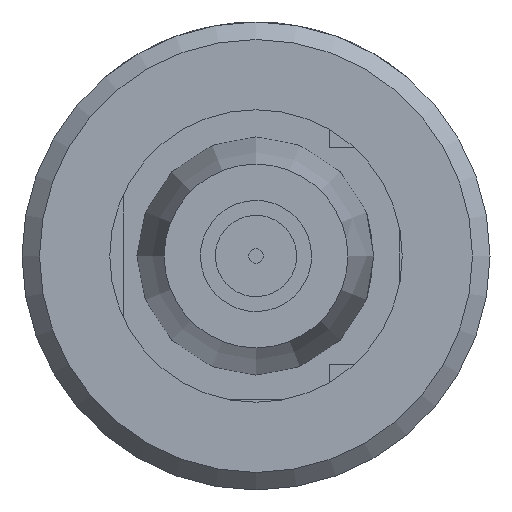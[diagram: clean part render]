
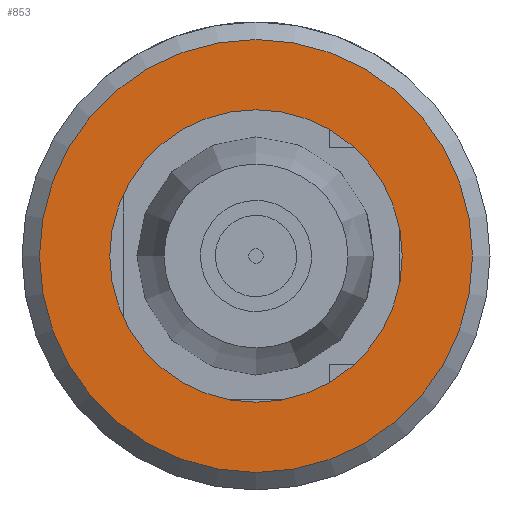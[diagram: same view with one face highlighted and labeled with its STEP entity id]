
A CAD part, front view. The second image highlights one B-rep face of the part: STEP entity #853.
In plain terms, the highlighted planar face has unit normal (0, -1, 0).
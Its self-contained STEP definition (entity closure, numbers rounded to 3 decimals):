
#109=FACE_BOUND('',#205,.T.);
#142=FACE_OUTER_BOUND('',#204,.T.);
#204=EDGE_LOOP('',(#618));
#205=EDGE_LOOP('',(#619));
#392=CIRCLE('',#1111,3.7);
#393=CIRCLE('',#1113,2.5);
#437=VERTEX_POINT('',#1545);
#438=VERTEX_POINT('',#1548);
#514=EDGE_CURVE('',#437,#437,#392,.T.);
#515=EDGE_CURVE('',#438,#438,#393,.T.);
#618=ORIENTED_EDGE('',*,*,#514,.F.);
#619=ORIENTED_EDGE('',*,*,#515,.F.);
#813=PLANE('',#1112);
#853=ADVANCED_FACE('',(#142,#109),#813,.T.);
#1111=AXIS2_PLACEMENT_3D('',#1546,#1249,#1250);
#1112=AXIS2_PLACEMENT_3D('',#1547,#1251,#1252);
#1113=AXIS2_PLACEMENT_3D('',#1549,#1253,#1254);
#1249=DIRECTION('center_axis',(0.,1.,0.));
#1250=DIRECTION('ref_axis',(-1.,0.,0.));
#1251=DIRECTION('center_axis',(0.,-1.,0.));
#1252=DIRECTION('ref_axis',(0.,0.,-1.));
#1253=DIRECTION('center_axis',(0.,-1.,0.));
#1254=DIRECTION('ref_axis',(1.,0.,0.));
#1545=CARTESIAN_POINT('',(13.526,0.98,0.));
#1546=CARTESIAN_POINT('Origin',(9.826,0.98,0.));
#1547=CARTESIAN_POINT('Origin',(13.076,0.98,0.));
#1548=CARTESIAN_POINT('',(12.326,0.98,0.));
#1549=CARTESIAN_POINT('Origin',(9.826,0.98,0.));
